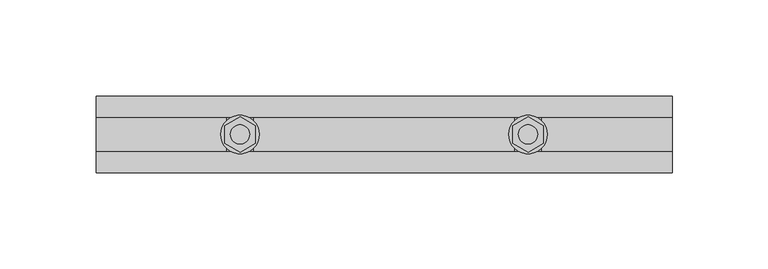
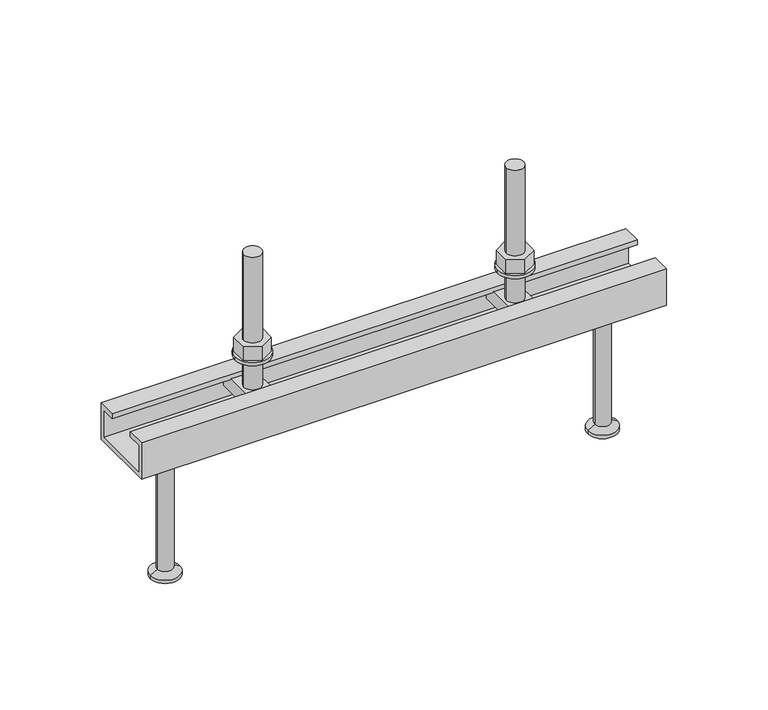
"""IFC4 building model written with IfcOpenShell, lengths in millimetres: fastener geometry, JTA-W JORDAHL® AnchorChannels : JTA-W L=300 mm."""

from ifc_helpers import new_model, si_unit, point, frame, frame_2d, origin, place, context, project, spatial, polyline, circle_curve, trimmed, segment, composite_curve, outline, extrude, source, transform, mapped, element, save
from ifc_brep_helpers import plane_surface, cylinder_surface, revolved_surface, advanced_brep


def fastener_29043b39(model_context):
    return source(origin(), model_context, "Body", "SolidModel", [
        extrude(outline(polyline([(225.0, 9.2376043), (233.0, 4.6188022), (233.0, -4.6188022), (225.0, -9.2376043), (217.0, -4.6188022), (217.0, 4.6188022), (225.0, 9.2376043)]), holes=[composite_curve([segment(trimmed(circle_curve(frame_2d((225.0, 0.0)), 5.0), [point((220.0, 0.0))], [point((230.0, 0.0))], True, "CARTESIAN"), True, "CONTINUOUS"), segment(trimmed(circle_curve(frame_2d((225.0, 0.0)), 5.0), [point((230.0, 0.0))], [point((220.0, 0.0))], True, "CARTESIAN"), True, "CONTINUOUS")], self_intersect=False)]), frame((0.0, 0.0, 17.0), z_axis=(0.0, 0.0, 1.0), x_axis=(1.0, 0.0, 0.0)), (0.0, 0.0, 1.0), 8.4),
        extrude(outline(composite_curve([segment(trimmed(circle_curve(frame_2d((225.0, 0.0)), 10.0), [point((215.0, 0.0))], [point((235.0, 0.0))], False, "CARTESIAN"), True, "CONTINUOUS"), segment(trimmed(circle_curve(frame_2d((225.0, 0.0)), 10.0), [point((235.0, 0.0))], [point((215.0, 0.0))], False, "CARTESIAN"), True, "CONTINUOUS")], self_intersect=False), holes=[composite_curve([segment(trimmed(circle_curve(frame_2d((225.0, 0.0)), 5.25), [point((219.75, 0.0))], [point((230.25, 0.0))], True, "CARTESIAN"), True, "CONTINUOUS"), segment(trimmed(circle_curve(frame_2d((225.0, 0.0)), 5.25), [point((230.25, 0.0))], [point((219.75, 0.0))], True, "CARTESIAN"), True, "CONTINUOUS")], self_intersect=False)]), frame((0.0, 0.0, 15.0), z_axis=(0.0, 0.0, 1.0), x_axis=(1.0, 0.0, 0.0)), (0.0, 0.0, 1.0), 2.0),
        extrude(outline(polyline([(75.0, 9.2376043), (83.0, 4.6188022), (83.0, -4.6188022), (75.0, -9.2376043), (67.0, -4.6188022), (67.0, 4.6188022), (75.0, 9.2376043)]), holes=[composite_curve([segment(trimmed(circle_curve(frame_2d((75.0, 0.0)), 5.0), [point((70.0, 0.0))], [point((80.0, 0.0))], True, "CARTESIAN"), True, "CONTINUOUS"), segment(trimmed(circle_curve(frame_2d((75.0, 0.0)), 5.0), [point((80.0, 0.0))], [point((70.0, 0.0))], True, "CARTESIAN"), True, "CONTINUOUS")], self_intersect=False)]), frame((0.0, 0.0, 17.0), z_axis=(0.0, 0.0, 1.0), x_axis=(1.0, 0.0, 0.0)), (0.0, 0.0, 1.0), 8.4),
        extrude(outline(composite_curve([segment(trimmed(circle_curve(frame_2d((75.0, 0.0)), 10.0), [point((65.0, 0.0))], [point((85.0, 0.0))], False, "CARTESIAN"), True, "CONTINUOUS"), segment(trimmed(circle_curve(frame_2d((75.0, 0.0)), 10.0), [point((85.0, 0.0))], [point((65.0, 0.0))], False, "CARTESIAN"), True, "CONTINUOUS")], self_intersect=False), holes=[composite_curve([segment(trimmed(circle_curve(frame_2d((75.0, 0.0)), 5.25), [point((69.75, 0.0))], [point((80.25, 0.0))], True, "CARTESIAN"), True, "CONTINUOUS"), segment(trimmed(circle_curve(frame_2d((75.0, 0.0)), 5.25), [point((80.25, 0.0))], [point((69.75, 0.0))], True, "CARTESIAN"), True, "CONTINUOUS")], self_intersect=False)]), frame((0.0, 0.0, 15.0), z_axis=(0.0, 0.0, 1.0), x_axis=(1.0, 0.0, 0.0)), (0.0, 0.0, 1.0), 2.0),
        advanced_brep(
        [(232.0, 16.25, -3.0), (232.0, -16.25, -3.0), (232.0, -16.25, -11.0), (232.0, 16.25, -11.0), (218.0, 16.25, -3.0), (218.0, 16.25, -11.0), (218.0, -16.25, -11.0), (218.0, -16.25, -3.0), (230.0, 0.0, -3.0), (220.0, 0.0, -3.0), (220.0, 0.0, 77.0), (230.0, 0.0, 77.0)],
        [
            (0, 1),
            (1, 2),
            (2, 3),
            (3, 0),
            (4, 5),
            (5, 6),
            (6, 7),
            (7, 4),
            (0, 4),
            (7, 1),
            (8, 9, circle_curve(frame((225.0, 0.0, -3.0), z_axis=(0.0, 0.0, -1.0), x_axis=(1.0, 0.0, 0.0)), 5.0)),
            (9, 8, circle_curve(frame((225.0, 0.0, -3.0), z_axis=(0.0, 0.0, -1.0), x_axis=(1.0, 0.0, 0.0)), 5.0)),
            (6, 2),
            (5, 3),
            (10, 11, circle_curve(frame((225.0, 0.0, 77.0), z_axis=(0.0, 0.0, 1.0), x_axis=(1.0, 0.0, 0.0)), 5.0)),
            (11, 10, circle_curve(frame((225.0, 0.0, 77.0), z_axis=(0.0, 0.0, 1.0), x_axis=(1.0, 0.0, 0.0)), 5.0)),
            (10, 9),
            (8, 11),
        ],
        [
            plane_surface(frame((232.0, -16.25, -3.0), z_axis=(1.0, 0.0, 0.0), x_axis=(0.0, -1.0, 0.0))),
            plane_surface(frame((218.0, -16.25, -3.0), z_axis=(-1.0, 0.0, 0.0), x_axis=(0.0, 1.0, 0.0))),
            plane_surface(frame((232.0, 16.25, -3.0), z_axis=(0.0, 0.0, 1.0), x_axis=(-1.0, 0.0, 0.0))),
            plane_surface(frame((232.0, -16.25, -3.0), z_axis=(0.0, -1.0, 0.0), x_axis=(-1.0, 0.0, 0.0))),
            plane_surface(frame((232.0, -16.25, -11.0), z_axis=(0.0, 0.0, -1.0), x_axis=(-1.0, 0.0, 0.0))),
            plane_surface(frame((232.0, 16.25, -11.0), z_axis=(0.0, 1.0, 0.0), x_axis=(-1.0, 0.0, 0.0))),
            plane_surface(frame((230.0, 0.0, 77.0), z_axis=(0.0, 0.0, 1.0), x_axis=(0.0, 1.0, 0.0))),
            cylinder_surface(frame((225.0, 0.0, -3.0), z_axis=(0.0, 0.0, 1.0), x_axis=(1.0, 0.0, 0.0)), 5.0),
        ],
        [
            (0, [[1, 2, 3, 4]]),
            (1, [[5, 6, 7, 8]]),
            (2, [[-1, 9, -8, 10], [11, 12]]),
            (3, [[-2, -10, -7, 13]]),
            (4, [[-3, -13, -6, 14]]),
            (5, [[-4, -14, -5, -9]]),
            (6, [[15, 16]]),
            (7, [[-15, 17, -11, 18]]),
            (7, [[-16, -18, -12, -17]]),
        ],
    ),
        advanced_brep(
        [(82.0, 16.25, -3.0), (82.0, -16.25, -3.0), (82.0, -16.25, -11.0), (82.0, 16.25, -11.0), (68.0, 16.25, -3.0), (68.0, 16.25, -11.0), (68.0, -16.25, -11.0), (68.0, -16.25, -3.0), (80.0, 0.0, -3.0), (70.0, 0.0, -3.0), (70.0, 0.0, 77.0), (80.0, 0.0, 77.0)],
        [
            (0, 1),
            (1, 2),
            (2, 3),
            (3, 0),
            (4, 5),
            (5, 6),
            (6, 7),
            (7, 4),
            (0, 4),
            (7, 1),
            (8, 9, circle_curve(frame((75.0, 0.0, -3.0), z_axis=(0.0, 0.0, -1.0), x_axis=(1.0, 0.0, 0.0)), 5.0)),
            (9, 8, circle_curve(frame((75.0, 0.0, -3.0), z_axis=(0.0, 0.0, -1.0), x_axis=(1.0, 0.0, 0.0)), 5.0)),
            (6, 2),
            (5, 3),
            (10, 11, circle_curve(frame((75.0, 0.0, 77.0), z_axis=(0.0, 0.0, 1.0), x_axis=(1.0, 0.0, 0.0)), 5.0)),
            (11, 10, circle_curve(frame((75.0, 0.0, 77.0), z_axis=(0.0, 0.0, 1.0), x_axis=(1.0, 0.0, 0.0)), 5.0)),
            (10, 9),
            (8, 11),
        ],
        [
            plane_surface(frame((82.0, -16.25, -3.0), z_axis=(1.0, 0.0, 0.0), x_axis=(0.0, -1.0, 0.0))),
            plane_surface(frame((68.0, -16.25, -3.0), z_axis=(-1.0, 0.0, 0.0), x_axis=(0.0, 1.0, 0.0))),
            plane_surface(frame((82.0, 16.25, -3.0), z_axis=(0.0, 0.0, 1.0), x_axis=(-1.0, 0.0, 0.0))),
            plane_surface(frame((82.0, -16.25, -3.0), z_axis=(0.0, -1.0, 0.0), x_axis=(-1.0, 0.0, 0.0))),
            plane_surface(frame((82.0, -16.25, -11.0), z_axis=(0.0, 0.0, -1.0), x_axis=(-1.0, 0.0, 0.0))),
            plane_surface(frame((82.0, 16.25, -11.0), z_axis=(0.0, 1.0, 0.0), x_axis=(-1.0, 0.0, 0.0))),
            plane_surface(frame((80.0, 0.0, 77.0), z_axis=(0.0, 0.0, 1.0), x_axis=(0.0, 1.0, 0.0))),
            cylinder_surface(frame((75.0, 0.0, -3.0), z_axis=(0.0, 0.0, 1.0), x_axis=(1.0, 0.0, 0.0)), 5.0),
        ],
        [
            (0, [[1, 2, 3, 4]]),
            (1, [[5, 6, 7, 8]]),
            (2, [[-1, 9, -8, 10], [11, 12]]),
            (3, [[-2, -10, -7, 13]]),
            (4, [[-3, -13, -6, 14]]),
            (5, [[-4, -14, -5, -9]]),
            (6, [[15, 16]]),
            (7, [[-15, 17, -11, 18]]),
            (7, [[-16, -18, -12, -17]]),
        ],
    ),
        advanced_brep(
        [(275.0, 0.0, -22.0), (288.5, 0.0, -22.0), (261.5, 0.0, -22.0), (266.5, 0.0, -100.0), (283.5, 0.0, -100.0), (275.0, 0.0, -100.0), (266.5, 0.0, -98.0), (283.5, 0.0, -98.0), (270.5, 0.0, -95.6905989), (279.5, 0.0, -95.6905989), (270.5, 0.0, -24.5), (279.5, 0.0, -24.5)],
        [
            (0, 1),
            (1, 2, circle_curve(frame((275.0, 0.0, -22.0), z_axis=(0.0, 0.0, 1.0), x_axis=(1.0, 0.0, 0.0)), 13.5)),
            (2, 0),
            (2, 1, circle_curve(frame((275.0, 0.0, -22.0), z_axis=(0.0, 0.0, 1.0), x_axis=(1.0, 0.0, 0.0)), 13.5)),
            (3, 4, circle_curve(frame((275.0, 0.0, -100.0), z_axis=(0.0, 0.0, -1.0), x_axis=(1.0, 0.0, 0.0)), 8.5)),
            (4, 5),
            (5, 3),
            (4, 3, circle_curve(frame((275.0, 0.0, -100.0), z_axis=(0.0, 0.0, -1.0), x_axis=(1.0, 0.0, 0.0)), 8.5)),
            (6, 7, circle_curve(frame((275.0, 0.0, -98.0), z_axis=(0.0, 0.0, -1.0), x_axis=(1.0, 0.0, 0.0)), 8.5)),
            (7, 4),
            (3, 6),
            (7, 6, circle_curve(frame((275.0, 0.0, -98.0), z_axis=(0.0, 0.0, -1.0), x_axis=(1.0, 0.0, 0.0)), 8.5)),
            (8, 9, circle_curve(frame((275.0, 0.0, -95.6905989), z_axis=(0.0, 0.0, -1.0), x_axis=(1.0, 0.0, 0.0)), 4.5)),
            (9, 7),
            (6, 8),
            (9, 8, circle_curve(frame((275.0, 0.0, -95.6905989), z_axis=(0.0, 0.0, -1.0), x_axis=(1.0, 0.0, 0.0)), 4.5)),
            (10, 11, circle_curve(frame((275.0, 0.0, -24.5), z_axis=(0.0, 0.0, -1.0), x_axis=(1.0, 0.0, 0.0)), 4.5)),
            (11, 9),
            (8, 10),
            (11, 10, circle_curve(frame((275.0, 0.0, -24.5), z_axis=(0.0, 0.0, -1.0), x_axis=(1.0, 0.0, 0.0)), 4.5)),
            (1, 11),
            (10, 2),
        ],
        [
            plane_surface(frame((275.0, 0.0, -22.0), z_axis=(0.0, 0.0, 1.0), x_axis=(1.0, 0.0, 0.0))),
            plane_surface(frame((275.0, 0.0, -100.0), z_axis=(0.0, 0.0, -1.0), x_axis=(1.0, 0.0, 0.0))),
            cylinder_surface(frame((275.0, 0.0, 2292.3150031), z_axis=(0.0, 0.0, 1.0), x_axis=(1.0, 0.0, 0.0)), 8.5),
            revolved_surface(polyline([(283.5, 0.0, -98.0), (279.5, 0.0, -95.6905989)]), (275.0, 0.0, 2292.3150031), (0.0, 0.0, 1.0)),
            cylinder_surface(frame((275.0, 0.0, 2292.3150031), z_axis=(0.0, 0.0, 1.0), x_axis=(1.0, 0.0, 0.0)), 4.5),
            revolved_surface(polyline([(279.5, 0.0, -24.5), (288.5, 0.0, -22.0)]), (275.0, 0.0, 2292.3150031), (0.0, 0.0, 1.0)),
        ],
        [
            (0, [[1, 2, 3]]),
            (0, [[-3, 4, -1]]),
            (1, [[5, 6, 7]]),
            (1, [[8, -7, -6]]),
            (2, [[9, 10, -5, 11]]),
            (2, [[12, -11, -8, -10]]),
            (3, [[13, 14, -9, 15]]),
            (3, [[16, -15, -12, -14]]),
            (4, [[17, 18, -13, 19]]),
            (4, [[20, -19, -16, -18]]),
            (5, [[-2, 21, -17, 22]]),
            (5, [[-4, -22, -20, -21]]),
        ],
    ),
        advanced_brep(
        [(25.0, 0.0, -22.0), (38.5, 0.0, -22.0), (11.5, 0.0, -22.0), (16.5, 0.0, -100.0), (33.5, 0.0, -100.0), (25.0, 0.0, -100.0), (16.5, 0.0, -98.0), (33.5, 0.0, -98.0), (20.5, 0.0, -95.6905989), (29.5, 0.0, -95.6905989), (20.5, 0.0, -24.5), (29.5, 0.0, -24.5)],
        [
            (0, 1),
            (1, 2, circle_curve(frame((25.0, 0.0, -22.0), z_axis=(0.0, 0.0, 1.0), x_axis=(1.0, 0.0, 0.0)), 13.5)),
            (2, 0),
            (2, 1, circle_curve(frame((25.0, 0.0, -22.0), z_axis=(0.0, 0.0, 1.0), x_axis=(1.0, 0.0, 0.0)), 13.5)),
            (3, 4, circle_curve(frame((25.0, 0.0, -100.0), z_axis=(0.0, 0.0, -1.0), x_axis=(1.0, 0.0, 0.0)), 8.5)),
            (4, 5),
            (5, 3),
            (4, 3, circle_curve(frame((25.0, 0.0, -100.0), z_axis=(0.0, 0.0, -1.0), x_axis=(1.0, 0.0, 0.0)), 8.5)),
            (6, 7, circle_curve(frame((25.0, 0.0, -98.0), z_axis=(0.0, 0.0, -1.0), x_axis=(1.0, 0.0, 0.0)), 8.5)),
            (7, 4),
            (3, 6),
            (7, 6, circle_curve(frame((25.0, 0.0, -98.0), z_axis=(0.0, 0.0, -1.0), x_axis=(1.0, 0.0, 0.0)), 8.5)),
            (8, 9, circle_curve(frame((25.0, 0.0, -95.6905989), z_axis=(0.0, 0.0, -1.0), x_axis=(1.0, 0.0, 0.0)), 4.5)),
            (9, 7),
            (6, 8),
            (9, 8, circle_curve(frame((25.0, 0.0, -95.6905989), z_axis=(0.0, 0.0, -1.0), x_axis=(1.0, 0.0, 0.0)), 4.5)),
            (10, 11, circle_curve(frame((25.0, 0.0, -24.5), z_axis=(0.0, 0.0, -1.0), x_axis=(1.0, 0.0, 0.0)), 4.5)),
            (11, 9),
            (8, 10),
            (11, 10, circle_curve(frame((25.0, 0.0, -24.5), z_axis=(0.0, 0.0, -1.0), x_axis=(1.0, 0.0, 0.0)), 4.5)),
            (1, 11),
            (10, 2),
        ],
        [
            plane_surface(frame((25.0, 0.0, -22.0), z_axis=(0.0, 0.0, 1.0), x_axis=(1.0, 0.0, 0.0))),
            plane_surface(frame((25.0, 0.0, -100.0), z_axis=(0.0, 0.0, -1.0), x_axis=(1.0, 0.0, 0.0))),
            cylinder_surface(frame((25.0, 0.0, 2292.3150031), z_axis=(0.0, 0.0, 1.0), x_axis=(1.0, 0.0, 0.0)), 8.5),
            revolved_surface(polyline([(33.5, 0.0, -98.0), (29.5, 0.0, -95.6905989)]), (25.0, 0.0, 2292.3150031), (0.0, 0.0, 1.0)),
            cylinder_surface(frame((25.0, 0.0, 2292.3150031), z_axis=(0.0, 0.0, 1.0), x_axis=(1.0, 0.0, 0.0)), 4.5),
            revolved_surface(polyline([(29.5, 0.0, -24.5), (38.5, 0.0, -22.0)]), (25.0, 0.0, 2292.3150031), (0.0, 0.0, 1.0)),
        ],
        [
            (0, [[1, 2, 3]]),
            (0, [[-3, 4, -1]]),
            (1, [[5, 6, 7]]),
            (1, [[8, -7, -6]]),
            (2, [[9, 10, -5, 11]]),
            (2, [[12, -11, -8, -10]]),
            (3, [[13, 14, -9, 15]]),
            (3, [[16, -15, -12, -14]]),
            (4, [[17, 18, -13, 19]]),
            (4, [[20, -19, -16, -18]]),
            (5, [[-2, 21, -17, 22]]),
            (5, [[-4, -22, -20, -21]]),
        ],
    ),
        extrude(outline(polyline([(20.0, 0.0), (20.0, -22.0), (-20.0, -22.0), (-20.0, 0.0), (-9.0, 0.0), (-9.0, -3.0), (-17.5, -3.0), (-17.5, -19.5), (17.5, -19.5), (17.5, -3.0), (9.0, -3.0), (9.0, 0.0), (20.0, 0.0)])), frame((0.0, 0.0, 0.0), z_axis=(1.0, 0.0, 0.0), x_axis=(0.0, 1.0, 0.0)), (0.0, 0.0, 1.0), 300.0),
    ])


if __name__ == "__main__":
    model = new_model("IFC4")
    model_context = context("Model", 3, world=origin())
    ifc_project = project(units=[si_unit("LENGTHUNIT", "METRE", prefix="MILLI")], contexts=[model_context])
    site = spatial("IfcSite", under=ifc_project)
    building = spatial("IfcBuilding", under=site)
    placement = place(None, origin())
    fastener_shape = fastener_29043b39(model_context)
    element("IfcFastener", 1, ObjectType="JTA-W JORDAHL® AnchorChannels : JTA-W L=300 mm", at=placement, inside=building, context=model_context, shape_type="MappedRepresentation", body=[
        mapped(fastener_shape, transform((0.0, 0.0, 0.0), x_axis=(1.0, 0.0, 0.0), y_axis=(0.0, 1.0, 0.0), z_axis=(0.0, 0.0, 1.0))),
    ])
    save(model, "model.ifc")
